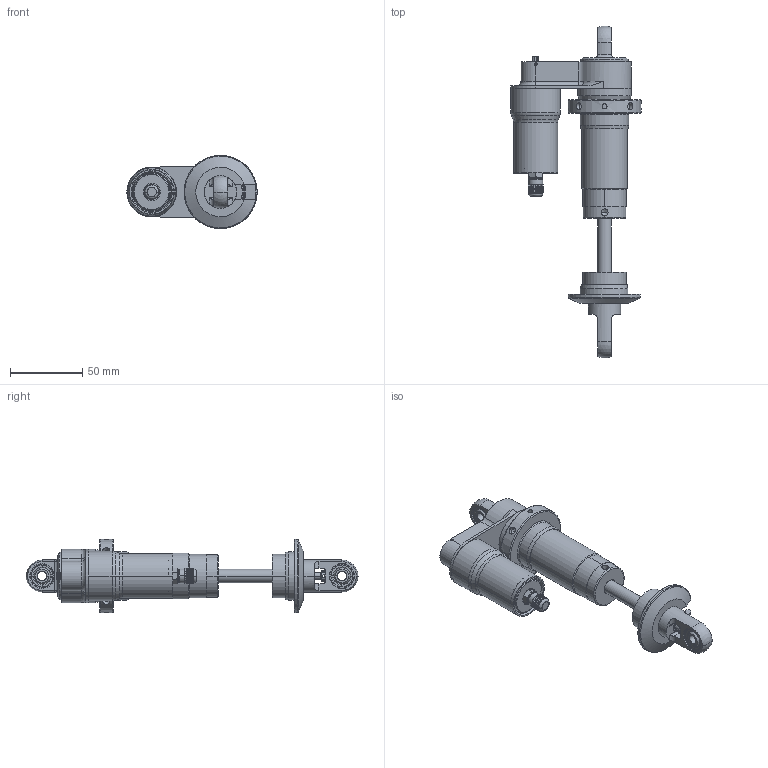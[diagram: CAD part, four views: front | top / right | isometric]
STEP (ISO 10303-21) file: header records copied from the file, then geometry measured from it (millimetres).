
FILE_DESCRIPTION((''),'2;1');
FILE_NAME('PS_78PB_DA_2','2010-06-21T',('Reedgr'),(''),'PRO/ENGINEER BY PARAMETRIC TECHNOLOGY CORPORATION, 2008090','PRO/ENGINEER BY PARAMETRIC TECHNOLOGY CORPORATION, 2008090','');
FILE_SCHEMA(('CONFIG_CONTROL_DESIGN'));
Length unit declared in the file: inch
Products named in the file (1): PS_78PB_DA_2
Bounding box: 90.04 x 229.62 x 50.55 mm (x, y, z)
Surface area: 51367.5 mm2 (no closed solid volume)
Topology: 0 solids, 44 shells, 591 faces, 2086 edges, 1486 vertices
Faces by surface type: cylinder 280, plane 110, cone 108, torus 79, sphere 10, bspline 4
Entity records: 24705 total; most frequent: CARTESIAN_POINT 8077, DIRECTION 3430, ORIENTED_EDGE 3076, EDGE_CURVE 2038, VERTEX_POINT 1478, AXIS2_PLACEMENT_3D 1372, CIRCLE 793, VECTOR 686
